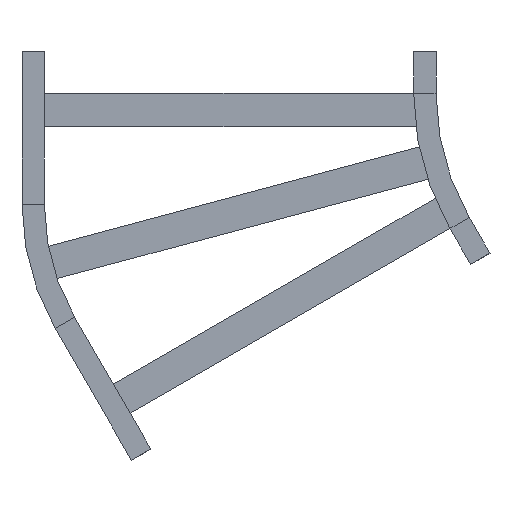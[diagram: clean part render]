
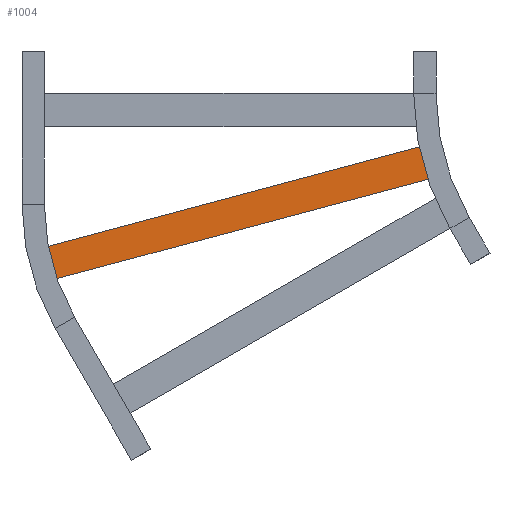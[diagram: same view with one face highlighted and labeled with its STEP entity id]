
A CAD part, front view. The second image highlights one B-rep face of the part: STEP entity #1004.
In plain terms, the highlighted planar face has unit normal (0, -1, 0).
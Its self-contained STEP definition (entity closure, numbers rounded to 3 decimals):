
#105 = DIRECTION ( 'NONE',  ( 0., 0., 1. ) ) ;
#116 = EDGE_CURVE ( 'NONE', #1509, #1702, #1597, .T. ) ;
#117 = FACE_OUTER_BOUND ( 'NONE', #1424, .T. ) ;
#138 = CARTESIAN_POINT ( 'NONE',  ( 256.5, 0., 20.25 ) ) ;
#162 = VERTEX_POINT ( 'NONE', #1321 ) ;
#197 = VECTOR ( 'NONE', #877, 1000. ) ;
#276 = ORIENTED_EDGE ( 'NONE', *, *, #783, .T. ) ;
#296 = DIRECTION ( 'NONE',  ( 0., 0., -1. ) ) ;
#343 = CARTESIAN_POINT ( 'NONE',  ( 256.5, 0., -20.25 ) ) ;
#422 = LINE ( 'NONE', #988, #1254 ) ;
#468 = CARTESIAN_POINT ( 'NONE',  ( 256.5, 0., -20.25 ) ) ;
#481 = ORIENTED_EDGE ( 'NONE', *, *, #116, .T. ) ;
#511 = DIRECTION ( 'NONE',  ( 0., 1., 0. ) ) ;
#560 = ORIENTED_EDGE ( 'NONE', *, *, #1286, .F. ) ;
#619 = VERTEX_POINT ( 'NONE', #468 ) ;
#739 = CARTESIAN_POINT ( 'NONE',  ( 256.5, 0., 20.25 ) ) ;
#782 = LINE ( 'NONE', #343, #1686 ) ;
#783 = EDGE_CURVE ( 'NONE', #1702, #162, #422, .T. ) ;
#796 = VECTOR ( 'NONE', #1295, 1000. ) ;
#877 = DIRECTION ( 'NONE',  ( 0., 0., -1. ) ) ;
#939 = DIRECTION ( 'NONE',  ( -1., 0., 0. ) ) ;
#988 = CARTESIAN_POINT ( 'NONE',  ( -256.5, 0., 20.25 ) ) ;
#1004 = ADVANCED_FACE ( 'NONE', ( #117 ), #1357, .F. ) ;
#1058 = EDGE_CURVE ( 'NONE', #619, #162, #782, .T. ) ;
#1178 = CARTESIAN_POINT ( 'NONE',  ( 256.5, 0., 20.25 ) ) ;
#1209 = AXIS2_PLACEMENT_3D ( 'NONE', #1494, #511, #105 ) ;
#1254 = VECTOR ( 'NONE', #296, 1000. ) ;
#1286 = EDGE_CURVE ( 'NONE', #1509, #619, #1448, .T. ) ;
#1295 = DIRECTION ( 'NONE',  ( -1., 0., 0. ) ) ;
#1321 = CARTESIAN_POINT ( 'NONE',  ( -256.5, 0., -20.25 ) ) ;
#1357 = PLANE ( 'NONE',  #1209 ) ;
#1424 = EDGE_LOOP ( 'NONE', ( #276, #1796, #560, #481 ) ) ;
#1448 = LINE ( 'NONE', #1178, #197 ) ;
#1494 = CARTESIAN_POINT ( 'NONE',  ( 256.5, 0., 20.25 ) ) ;
#1509 = VERTEX_POINT ( 'NONE', #138 ) ;
#1597 = LINE ( 'NONE', #739, #796 ) ;
#1686 = VECTOR ( 'NONE', #939, 1000. ) ;
#1702 = VERTEX_POINT ( 'NONE', #1717 ) ;
#1717 = CARTESIAN_POINT ( 'NONE',  ( -256.5, 0., 20.25 ) ) ;
#1796 = ORIENTED_EDGE ( 'NONE', *, *, #1058, .F. ) ;
